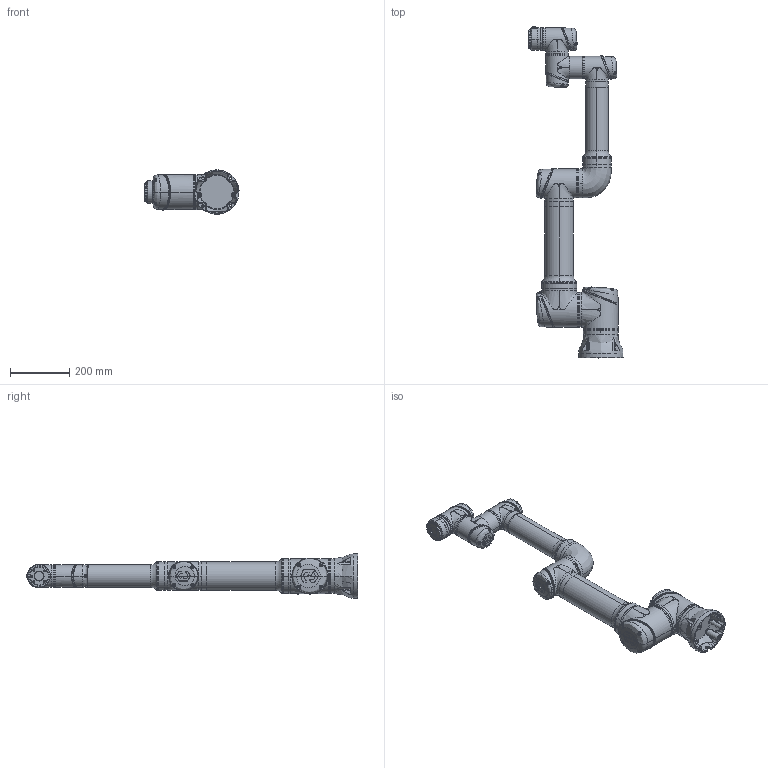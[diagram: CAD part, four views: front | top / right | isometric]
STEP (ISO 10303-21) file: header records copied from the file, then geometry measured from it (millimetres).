
FILE_DESCRIPTION (( 'STEP AP203' ), '1' );
FILE_NAME ('ES_掛极ES66_V1.1.STEP', '2025-07-03T03:19:16', ( '' ), ( '' ), 'SwSTEP 2.0', 'SolidWorks 2017', '' );
FILE_SCHEMA (( 'CONFIG_CONTROL_DESIGN' ));
Length unit declared in the file: millimetre
Products named in the file (8): ES66-Base; ES66-Flange; ES66-J6; ES66-J1; ES66-Link2A_Link2B_J4; ES66-J5; ES_掛极ES66_V1.1; ES66-J2_Link1_J3
Assembly tree (7 placements, depth 2):
  ES_掛极ES66_V1.1
    ES66-Base
    ES66-Flange
    ES66-J1
    ES66-J2_Link1_J3
    ES66-J5
    ES66-J6
    ES66-Link2A_Link2B_J4
Bounding box: 317.35 x 1120.7 x 149.7 mm (x, y, z)
Volume: 11898585.9 mm3; surface area: 928297 mm2
Topology: 73 solids, 78 shells, 4754 faces, 11390 edges, 6812 vertices
Faces by surface type: bspline 2340, plane 1092, cylinder 721, cone 324, sphere 153, torus 124
Entity records: 670547 total; most frequent: CARTESIAN_POINT 578796, ORIENTED_EDGE 22376, DIRECTION 14076, EDGE_CURVE 11188, VERTEX_POINT 6800, AXIS2_PLACEMENT_3D 5966, EDGE_LOOP 5040, B_SPLINE_CURVE_WITH_KNOTS 4938
